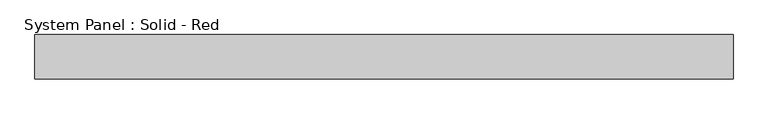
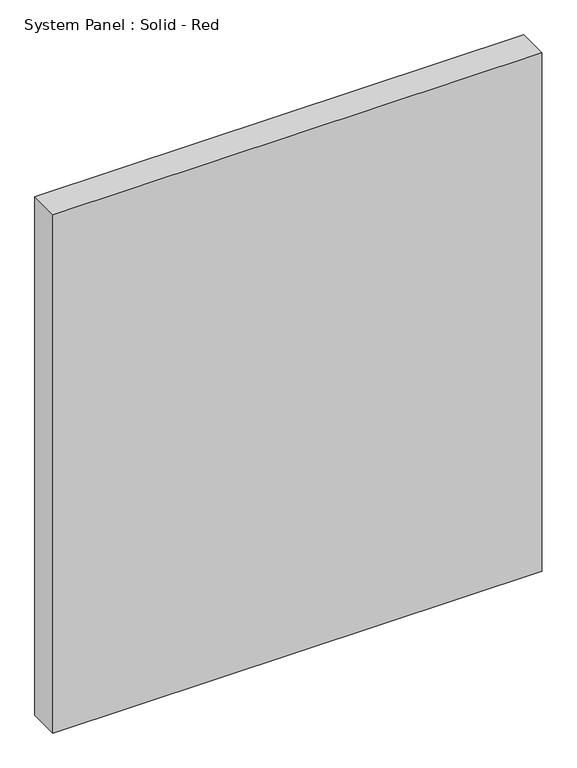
"""IFC4 building model written with IfcOpenShell, lengths in millimetres: plate geometry, System Panel : Solid - Red."""

from ifc_helpers import new_model, si_unit, origin, origin_with_axes, place, context, project, spatial, polyline, outline, extrude, source, transform, mapped, element, save


def system_panel_solid_red_5ddafcfa(model_context):
    return source(origin(), model_context, "Body", "SweptSolid", [
        extrude(outline(polyline([(501.1964285, -19.05), (-501.1964285, -19.05), (-501.1964285, 44.45), (501.1964285, 44.45), (501.1964285, -19.05)])), origin_with_axes(), (0.0, 0.0, 1.0), 1123.95),
    ])


if __name__ == "__main__":
    model = new_model("IFC4")
    model_context = context("Model", 3, world=origin())
    ifc_project = project(units=[si_unit("LENGTHUNIT", "METRE", prefix="MILLI")], contexts=[model_context])
    site = spatial("IfcSite", under=ifc_project)
    building = spatial("IfcBuilding", under=site)
    placement = place(None, origin())
    system_panel_solid_red_shape = system_panel_solid_red_5ddafcfa(model_context)
    element("IfcPlate", 1, ObjectType="System Panel : Solid - Red", at=placement, inside=building, context=model_context, shape_type="MappedRepresentation", body=[
        mapped(system_panel_solid_red_shape, transform((0.0, 0.0, 0.0), x_axis=(1.0, 0.0, 0.0), y_axis=(0.0, 1.0, 0.0), z_axis=(0.0, 0.0, 1.0))),
    ])
    save(model, "model.ifc")
